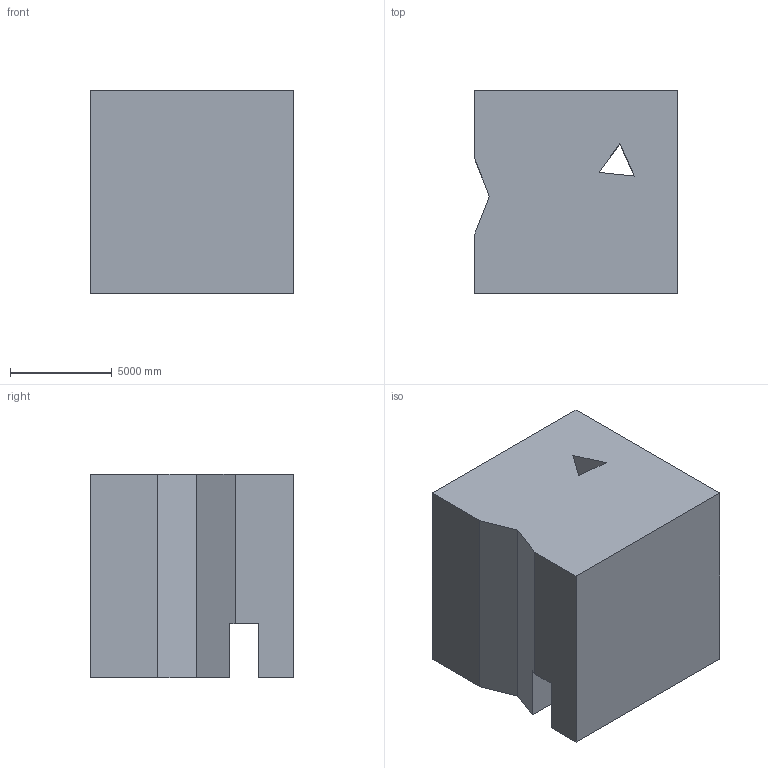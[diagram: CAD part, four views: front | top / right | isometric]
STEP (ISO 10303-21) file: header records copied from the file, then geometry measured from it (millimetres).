
FILE_DESCRIPTION (( 'STEP AP203' ), '1' );
FILE_NAME ('1322.STEP', '2022-08-18T13:45:53', ( 'user' ), ( '' ), 'SwSTEP 2.0', 'SolidWorks 2021', '' );
FILE_SCHEMA (( 'CONFIG_CONTROL_DESIGN' ));
Length unit declared in the file: centimetre
Products named in the file (1): 1322
Bounding box: 10000 x 10000 x 10000 mm (x, y, z)
Volume: 929794849761.3 mm3; surface area: 699177811.4 mm2
Topology: 1 solids, 1 shells, 20 faces, 54 edges, 36 vertices
Faces by surface type: plane 20
Entity records: 699 total; most frequent: CARTESIAN_POINT 111, ORIENTED_EDGE 108, DIRECTION 96, VECTOR 54, LINE 54, EDGE_CURVE 54, VERTEX_POINT 36, EDGE_LOOP 22
